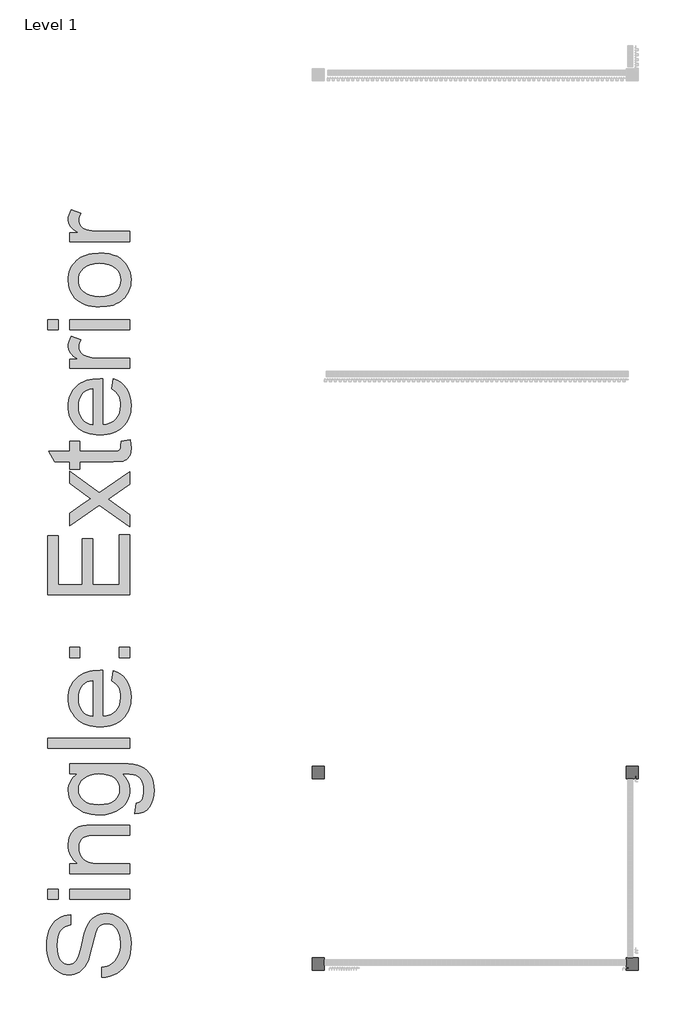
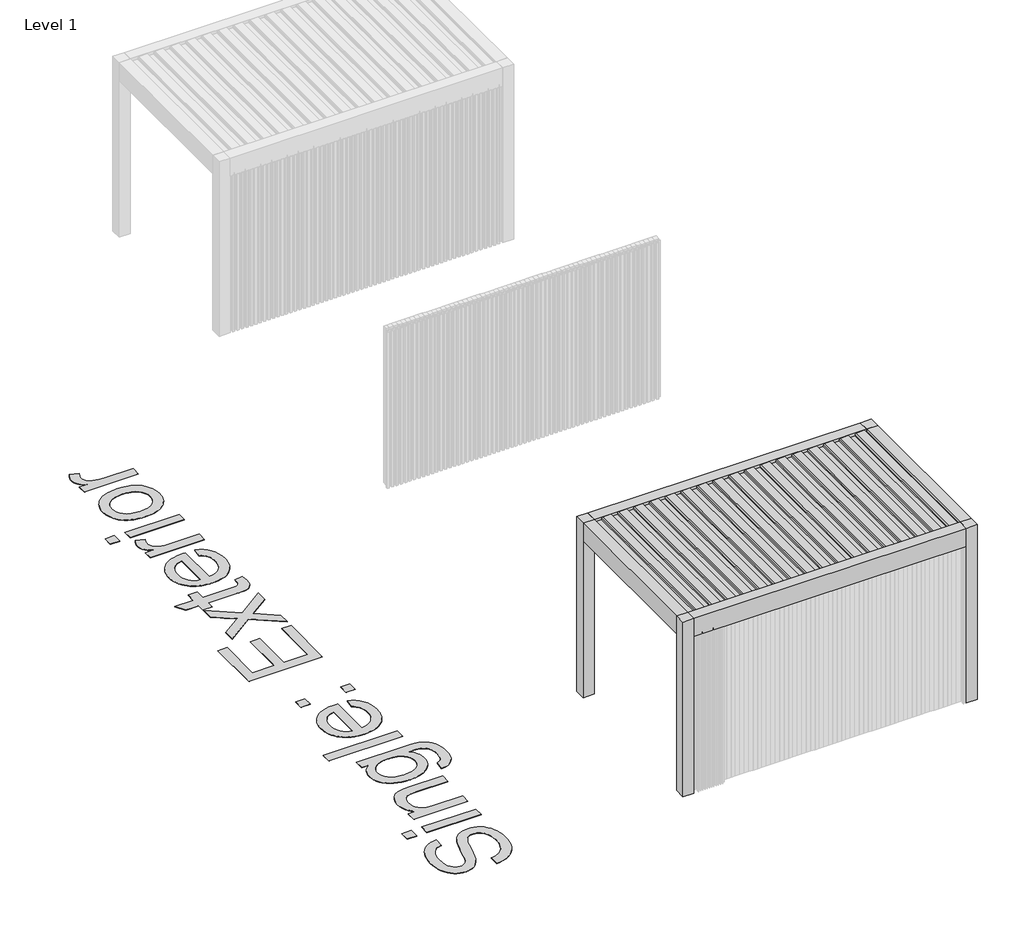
# One storey, part 55 of 69: 2 proxies.
"""IFC4 building model written with IfcOpenShell, lengths in millimetres."""

from ifc_helpers import new_model, si_unit, point, frame, frame_2d, origin, origin_with_axes, place, context, project, spatial, polyline, circle_curve, trimmed, segment, composite_curve, outline, extrude, element, save

model = new_model("IFC4")

# Units and contexts
model_context = context("Model", 3, world=origin())
ifc_project = project(units=[si_unit("LENGTHUNIT", "METRE", prefix="MILLI")], contexts=[model_context])

# Site, building, storey
site = spatial("IfcSite", under=ifc_project)
building = spatial("IfcBuilding", under=site)
storey = spatial("IfcBuildingStorey", under=building, Name="Level 1", Elevation=0.0)

# Proxies
placement = place(None, origin())
element("IfcBuildingElementProxy", 1, Name="Renson_Camargue_Freestanding_Patio covers : Renson_Camargue_Freestanding_Patio covers", ObjectType="Renson_Camargue_Freestanding_Patio covers : Renson_Camargue_Freestanding_Patio covers", at=placement, inside=storey, context=model_context, shape_type="SweptSolid", body=[
    extrude(outline(polyline([(210975.5749426, 10609.7218191), (210975.5749426, 10459.7218191), (210825.5749426, 10459.7218191), (210825.5749426, 10609.7218191), (210975.5749426, 10609.7218191)])), origin_with_axes(), (0.0, 0.0, 1.0), 2510.0),
    extrude(outline(polyline([(207125.5749426, 10609.7218191), (207125.5749426, 10459.7218191), (206975.5749426, 10459.7218191), (206975.5749426, 10609.7218191), (207125.5749426, 10609.7218191)])), origin_with_axes(), (0.0, 0.0, 1.0), 2510.0),
    extrude(outline(polyline([(210975.5749426, 8259.7218191), (210975.5749426, 8109.7218191), (210825.5749426, 8109.7218191), (210825.5749426, 8259.7218191), (210975.5749426, 8259.7218191)])), origin_with_axes(), (0.0, 0.0, 1.0), 2510.0),
    extrude(outline(polyline([(207125.5749426, 8259.7218191), (207125.5749426, 8109.7218191), (206975.5749426, 8109.7218191), (206975.5749426, 8259.7218191), (207125.5749426, 8259.7218191)])), origin_with_axes(), (0.0, 0.0, 1.0), 2510.0),
    extrude(outline(polyline([(8259.7218191, 2510.0), (8259.7218191, 2322.0), (8329.721819, 2322.0), (8329.721819, 2250.0), (8109.7218191, 2250.0), (8109.7218191, 2510.0), (8259.7218191, 2510.0)])), frame((207125.5749426, 0.0, 0.0), z_axis=(1.0, 0.0, 0.0), x_axis=(0.0, 1.0, 0.0)), (0.0, 0.0, 1.0), 3700.0),
    extrude(outline(polyline([(10609.7218191, 2250.0), (10389.7218192, 2250.0), (10389.7218192, 2322.0), (10459.7218191, 2322.0), (10459.7218191, 2510.0), (10609.7218191, 2510.0), (10609.7218191, 2250.0)])), frame((207125.5749426, 0.0, 0.0), z_axis=(1.0, 0.0, 0.0), x_axis=(0.0, 1.0, 0.0)), (0.0, 0.0, 1.0), 3700.0),
    extrude(outline(polyline([(2510.0, 210975.5749426), (2510.0, 210825.5749426), (2479.6904658, 210825.5749426), (2479.2449277, 210820.5749426), (2471.400763, 210820.5749426), (2455.6555802, 210804.8293581), (2455.6555802, 210795.4839749), (2441.6559373, 210799.2352636), (2441.6559373, 210825.5749426), (2250.0, 210825.5749426), (2250.0, 210975.5749426), (2510.0, 210975.5749426)])), frame((0.0, 8259.7218191, 0.0), z_axis=(0.0, 1.0, 0.0), x_axis=(0.0, 0.0, 1.0)), (0.0, 0.0, 1.0), 2200.0),
    extrude(outline(polyline([(207125.5749426, 8259.7218191), (206975.5749426, 8259.7218191), (206975.5749426, 10459.7218191), (207125.5749426, 10459.7218191), (207125.5749426, 8259.7218191)])), frame((0.0, 0.0, 2250.0), z_axis=(0.0, 0.0, 1.0), x_axis=(1.0, 0.0, 0.0)), (0.0, 0.0, 1.0), 260.0),
    extrude(outline(polyline([(2441.6559373, 207125.5749426), (2441.6559373, 207151.5749426), (2455.6555802, 207155.3262313), (2455.6555802, 207145.9808481), (2471.400763, 207130.5749426), (2479.2449277, 207130.5749426), (2479.6823598, 207125.5749426), (2441.6559373, 207125.5749426)])), frame((0.0, 8259.7218191, 0.0), z_axis=(0.0, 1.0, 0.0), x_axis=(0.0, 0.0, 1.0)), (0.0, 0.0, 1.0), 2200.0),
    extrude(outline(composite_curve([segment(polyline([(2458.35, 207324.1467059), (2486.01198, 207326.5668156), (2487.3970364, 207355.4020661), (2506.8911096, 207351.964735), (2501.6075693, 207241.9676201)]), True, "CONTINUOUS"), segment(trimmed(circle_curve(frame_2d((2486.6248435, 207242.6872921)), 15.0), [point((2501.6075693, 207241.9676201))], [point((2489.2295662, 207227.9151758))], False, "CARTESIAN"), True, "CONTINUOUS"), segment(polyline([(2489.2295662, 207227.9151758), (2470.0, 207224.5244844), (2470.0, 207136.7887084), (2487.0788237, 207133.777251), (2486.3450182, 207118.5002805), (2458.35, 207116.0510338), (2458.35, 207324.1467059)]), True, "CONTINUOUS")], self_intersect=False)), frame((0.0, 8259.7218191, 0.0), z_axis=(0.0, 1.0, 0.0), x_axis=(0.0, 0.0, 1.0)), (0.0, 0.0, 1.0), 2200.0),
    extrude(outline(composite_curve([segment(polyline([(2458.35, 210764.3195824), (2486.01198, 210766.7396921), (2487.3970364, 210795.5749426), (2506.8911096, 210792.1376115), (2501.6075693, 210682.1404966)]), True, "CONTINUOUS"), segment(trimmed(circle_curve(frame_2d((2486.6248435, 210682.8601686)), 15.0), [point((2501.6075693, 210682.1404966))], [point((2489.2295662, 210668.0880523))], False, "CARTESIAN"), True, "CONTINUOUS"), segment(polyline([(2489.2295662, 210668.0880523), (2470.0, 210664.6973609), (2470.0, 210576.9615849), (2487.0788237, 210573.9501275), (2486.3450182, 210558.673157), (2458.35, 210556.2239103), (2458.35, 210764.3195824)]), True, "CONTINUOUS")], self_intersect=False)), frame((0.0, 8259.7218191, 0.0), z_axis=(0.0, 1.0, 0.0), x_axis=(0.0, 0.0, 1.0)), (0.0, 0.0, 1.0), 2200.0),
    extrude(outline(composite_curve([segment(polyline([(2458.35, 207539.1575107), (2486.01198, 207541.5776204), (2487.3970364, 207570.4128708), (2506.8911096, 207566.9755398), (2501.6075693, 207456.9784249)]), True, "CONTINUOUS"), segment(trimmed(circle_curve(frame_2d((2486.6248435, 207457.6980968)), 15.0), [point((2501.6075693, 207456.9784249))], [point((2489.2295662, 207442.9259805))], False, "CARTESIAN"), True, "CONTINUOUS"), segment(polyline([(2489.2295662, 207442.9259805), (2470.0, 207439.5352892), (2470.0, 207351.7995132), (2487.0788237, 207348.7880558), (2486.3450182, 207333.5110853), (2458.35, 207331.0618386), (2458.35, 207539.1575107)]), True, "CONTINUOUS")], self_intersect=False)), frame((0.0, 8259.7218191, 0.0), z_axis=(0.0, 1.0, 0.0), x_axis=(0.0, 0.0, 1.0)), (0.0, 0.0, 1.0), 2200.0),
    extrude(outline(composite_curve([segment(polyline([(2458.35, 207754.1683155), (2486.01198, 207756.5884252), (2487.3970364, 207785.4236756), (2506.8911096, 207781.9863445), (2501.6075693, 207671.9892297)]), True, "CONTINUOUS"), segment(trimmed(circle_curve(frame_2d((2486.6248435, 207672.7089016)), 15.0), [point((2501.6075693, 207671.9892297))], [point((2489.2295662, 207657.9367853))], False, "CARTESIAN"), True, "CONTINUOUS"), segment(polyline([(2489.2295662, 207657.9367853), (2470.0, 207654.546094), (2470.0, 207566.810318), (2487.0788237, 207563.7988605), (2486.3450182, 207548.5218901), (2458.35, 207546.0726433), (2458.35, 207754.1683155)]), True, "CONTINUOUS")], self_intersect=False)), frame((0.0, 8259.7218191, 0.0), z_axis=(0.0, 1.0, 0.0), x_axis=(0.0, 0.0, 1.0)), (0.0, 0.0, 1.0), 2200.0),
    extrude(outline(composite_curve([segment(polyline([(2458.35, 207969.1791203), (2486.01198, 207971.5992299), (2487.3970364, 208000.4344804), (2506.8911096, 207996.9971493), (2501.6075693, 207887.0000345)]), True, "CONTINUOUS"), segment(trimmed(circle_curve(frame_2d((2486.6248435, 207887.7197064)), 15.0), [point((2501.6075693, 207887.0000345))], [point((2489.2295662, 207872.9475901))], False, "CARTESIAN"), True, "CONTINUOUS"), segment(polyline([(2489.2295662, 207872.9475901), (2470.0, 207869.5568988), (2470.0, 207781.8211227), (2487.0788237, 207778.8096653), (2486.3450182, 207763.5326948), (2458.35, 207761.0834481), (2458.35, 207969.1791203)]), True, "CONTINUOUS")], self_intersect=False)), frame((0.0, 8259.7218191, 0.0), z_axis=(0.0, 1.0, 0.0), x_axis=(0.0, 0.0, 1.0)), (0.0, 0.0, 1.0), 2200.0),
    extrude(outline(composite_curve([segment(polyline([(2458.35, 208184.1899251), (2486.01198, 208186.6100347), (2487.3970364, 208215.4452852), (2506.8911096, 208212.0079541), (2501.6075693, 208102.0108393)]), True, "CONTINUOUS"), segment(trimmed(circle_curve(frame_2d((2486.6248435, 208102.7305112)), 15.0), [point((2501.6075693, 208102.0108393))], [point((2489.2295662, 208087.9583949))], False, "CARTESIAN"), True, "CONTINUOUS"), segment(polyline([(2489.2295662, 208087.9583949), (2470.0, 208084.5677035), (2470.0, 207996.8319275), (2487.0788237, 207993.8204701), (2486.3450182, 207978.5434996), (2458.35, 207976.0942529), (2458.35, 208184.1899251)]), True, "CONTINUOUS")], self_intersect=False)), frame((0.0, 8259.7218191, 0.0), z_axis=(0.0, 1.0, 0.0), x_axis=(0.0, 0.0, 1.0)), (0.0, 0.0, 1.0), 2200.0),
    extrude(outline(composite_curve([segment(polyline([(2458.35, 208399.2007298), (2486.01198, 208401.6208395), (2487.3970364, 208430.45609), (2506.8911096, 208427.0187589), (2501.6075693, 208317.021644)]), True, "CONTINUOUS"), segment(trimmed(circle_curve(frame_2d((2486.6248435, 208317.741316)), 15.0), [point((2501.6075693, 208317.021644))], [point((2489.2295662, 208302.9691997))], False, "CARTESIAN"), True, "CONTINUOUS"), segment(polyline([(2489.2295662, 208302.9691997), (2470.0, 208299.5785083), (2470.0, 208211.8427323), (2487.0788237, 208208.8312749), (2486.3450182, 208193.5543044), (2458.35, 208191.1050577), (2458.35, 208399.2007298)]), True, "CONTINUOUS")], self_intersect=False)), frame((0.0, 8259.7218191, 0.0), z_axis=(0.0, 1.0, 0.0), x_axis=(0.0, 0.0, 1.0)), (0.0, 0.0, 1.0), 2200.0),
    extrude(outline(composite_curve([segment(polyline([(2458.35, 208614.2115346), (2486.01198, 208616.6316443), (2487.3970364, 208645.4668947), (2506.8911096, 208642.0295637), (2501.6075693, 208532.0324488)]), True, "CONTINUOUS"), segment(trimmed(circle_curve(frame_2d((2486.6248435, 208532.7521207)), 15.0), [point((2501.6075693, 208532.0324488))], [point((2489.2295662, 208517.9800045))], False, "CARTESIAN"), True, "CONTINUOUS"), segment(polyline([(2489.2295662, 208517.9800045), (2470.0, 208514.5893131), (2470.0, 208426.8535371), (2487.0788237, 208423.8420797), (2486.3450182, 208408.5651092), (2458.35, 208406.1158625), (2458.35, 208614.2115346)]), True, "CONTINUOUS")], self_intersect=False)), frame((0.0, 8259.7218191, 0.0), z_axis=(0.0, 1.0, 0.0), x_axis=(0.0, 0.0, 1.0)), (0.0, 0.0, 1.0), 2200.0),
    extrude(outline(composite_curve([segment(polyline([(2458.35, 208829.2223394), (2486.01198, 208831.6424491), (2487.3970364, 208860.4776995), (2506.8911096, 208857.0403684), (2501.6075693, 208747.0432536)]), True, "CONTINUOUS"), segment(trimmed(circle_curve(frame_2d((2486.6248435, 208747.7629255)), 15.0), [point((2501.6075693, 208747.0432536))], [point((2489.2295662, 208732.9908092))], False, "CARTESIAN"), True, "CONTINUOUS"), segment(polyline([(2489.2295662, 208732.9908092), (2470.0, 208729.6001179), (2470.0, 208641.8643419), (2487.0788237, 208638.8528844), (2486.3450182, 208623.575914), (2458.35, 208621.1266672), (2458.35, 208829.2223394)]), True, "CONTINUOUS")], self_intersect=False)), frame((0.0, 8259.7218191, 0.0), z_axis=(0.0, 1.0, 0.0), x_axis=(0.0, 0.0, 1.0)), (0.0, 0.0, 1.0), 2200.0),
    extrude(outline(composite_curve([segment(polyline([(2458.35, 209044.2331442), (2486.01198, 209046.6532538), (2487.3970364, 209075.4885043), (2506.8911096, 209072.0511732), (2501.6075693, 208962.0540584)]), True, "CONTINUOUS"), segment(trimmed(circle_curve(frame_2d((2486.6248435, 208962.7737303)), 15.0), [point((2501.6075693, 208962.0540584))], [point((2489.2295662, 208948.001614))], False, "CARTESIAN"), True, "CONTINUOUS"), segment(polyline([(2489.2295662, 208948.001614), (2470.0, 208944.6109227), (2470.0, 208856.8751466), (2487.0788237, 208853.8636892), (2486.3450182, 208838.5867188), (2458.35, 208836.137472), (2458.35, 209044.2331442)]), True, "CONTINUOUS")], self_intersect=False)), frame((0.0, 8259.7218191, 0.0), z_axis=(0.0, 1.0, 0.0), x_axis=(0.0, 0.0, 1.0)), (0.0, 0.0, 1.0), 2200.0),
    extrude(outline(composite_curve([segment(polyline([(2458.35, 209259.243949), (2486.01198, 209261.6640586), (2487.3970364, 209290.4993091), (2506.8911096, 209287.061978), (2501.6075693, 209177.0648632)]), True, "CONTINUOUS"), segment(trimmed(circle_curve(frame_2d((2486.6248435, 209177.7845351)), 15.0), [point((2501.6075693, 209177.0648632))], [point((2489.2295662, 209163.0124188))], False, "CARTESIAN"), True, "CONTINUOUS"), segment(polyline([(2489.2295662, 209163.0124188), (2470.0, 209159.6217275), (2470.0, 209071.8859514), (2487.0788237, 209068.874494), (2486.3450182, 209053.5975235), (2458.35, 209051.1482768), (2458.35, 209259.243949)]), True, "CONTINUOUS")], self_intersect=False)), frame((0.0, 8259.7218191, 0.0), z_axis=(0.0, 1.0, 0.0), x_axis=(0.0, 0.0, 1.0)), (0.0, 0.0, 1.0), 2200.0),
    extrude(outline(composite_curve([segment(polyline([(2458.35, 209474.2547538), (2486.01198, 209476.6748634), (2487.3970364, 209505.5101139), (2506.8911096, 209502.0727828), (2501.6075693, 209392.0756679)]), True, "CONTINUOUS"), segment(trimmed(circle_curve(frame_2d((2486.6248435, 209392.7953399)), 15.0), [point((2501.6075693, 209392.0756679))], [point((2489.2295662, 209378.0232236))], False, "CARTESIAN"), True, "CONTINUOUS"), segment(polyline([(2489.2295662, 209378.0232236), (2470.0, 209374.6325322), (2470.0, 209286.8967562), (2487.0788237, 209283.8852988), (2486.3450182, 209268.6083283), (2458.35, 209266.1590816), (2458.35, 209474.2547538)]), True, "CONTINUOUS")], self_intersect=False)), frame((0.0, 8259.7218191, 0.0), z_axis=(0.0, 1.0, 0.0), x_axis=(0.0, 0.0, 1.0)), (0.0, 0.0, 1.0), 2200.0),
    extrude(outline(composite_curve([segment(polyline([(2458.35, 209689.2655585), (2486.01198, 209691.6856682), (2487.3970364, 209720.5209187), (2506.8911096, 209717.0835876), (2501.6075693, 209607.0864727)]), True, "CONTINUOUS"), segment(trimmed(circle_curve(frame_2d((2486.6248435, 209607.8061447)), 15.0), [point((2501.6075693, 209607.0864727))], [point((2489.2295662, 209593.0340284))], False, "CARTESIAN"), True, "CONTINUOUS"), segment(polyline([(2489.2295662, 209593.0340284), (2470.0, 209589.643337), (2470.0, 209501.907561), (2487.0788237, 209498.8961036), (2486.3450182, 209483.6191331), (2458.35, 209481.1698864), (2458.35, 209689.2655585)]), True, "CONTINUOUS")], self_intersect=False)), frame((0.0, 8259.7218191, 0.0), z_axis=(0.0, 1.0, 0.0), x_axis=(0.0, 0.0, 1.0)), (0.0, 0.0, 1.0), 2200.0),
    extrude(outline(composite_curve([segment(polyline([(2458.35, 209904.2763633), (2486.01198, 209906.696473), (2487.3970364, 209935.5317234), (2506.8911096, 209932.0943924), (2501.6075693, 209822.0972775)]), True, "CONTINUOUS"), segment(trimmed(circle_curve(frame_2d((2486.6248435, 209822.8169494)), 15.0), [point((2501.6075693, 209822.0972775))], [point((2489.2295662, 209808.0448331))], False, "CARTESIAN"), True, "CONTINUOUS"), segment(polyline([(2489.2295662, 209808.0448331), (2470.0, 209804.6541418), (2470.0, 209716.9183658), (2487.0788237, 209713.9069084), (2486.3450182, 209698.6299379), (2458.35, 209696.1806912), (2458.35, 209904.2763633)]), True, "CONTINUOUS")], self_intersect=False)), frame((0.0, 8259.7218191, 0.0), z_axis=(0.0, 1.0, 0.0), x_axis=(0.0, 0.0, 1.0)), (0.0, 0.0, 1.0), 2200.0),
    extrude(outline(composite_curve([segment(polyline([(2458.35, 210119.2871681), (2486.01198, 210121.7072778), (2487.3970364, 210150.5425282), (2506.8911096, 210147.1051971), (2501.6075693, 210037.1080823)]), True, "CONTINUOUS"), segment(trimmed(circle_curve(frame_2d((2486.6248435, 210037.8277542)), 15.0), [point((2501.6075693, 210037.1080823))], [point((2489.2295662, 210023.0556379))], False, "CARTESIAN"), True, "CONTINUOUS"), segment(polyline([(2489.2295662, 210023.0556379), (2470.0, 210019.6649466), (2470.0, 209931.9291706), (2487.0788237, 209928.9177131), (2486.3450182, 209913.6407427), (2458.35, 209911.1914959), (2458.35, 210119.2871681)]), True, "CONTINUOUS")], self_intersect=False)), frame((0.0, 8259.7218191, 0.0), z_axis=(0.0, 1.0, 0.0), x_axis=(0.0, 0.0, 1.0)), (0.0, 0.0, 1.0), 2200.0),
    extrude(outline(composite_curve([segment(polyline([(2458.35, 210334.2979729), (2486.01198, 210336.7180825), (2487.3970364, 210365.553333), (2506.8911096, 210362.1160019), (2501.6075693, 210252.1188871)]), True, "CONTINUOUS"), segment(trimmed(circle_curve(frame_2d((2486.6248435, 210252.838559)), 15.0), [point((2501.6075693, 210252.1188871))], [point((2489.2295662, 210238.0664427))], False, "CARTESIAN"), True, "CONTINUOUS"), segment(polyline([(2489.2295662, 210238.0664427), (2470.0, 210234.6757514), (2470.0, 210146.9399753), (2487.0788237, 210143.9285179), (2486.3450182, 210128.6515474), (2458.35, 210126.2023007), (2458.35, 210334.2979729)]), True, "CONTINUOUS")], self_intersect=False)), frame((0.0, 8259.7218191, 0.0), z_axis=(0.0, 1.0, 0.0), x_axis=(0.0, 0.0, 1.0)), (0.0, 0.0, 1.0), 2200.0),
    extrude(outline(composite_curve([segment(polyline([(2458.35, 210549.3087777), (2486.01198, 210551.7288873), (2487.3970364, 210580.5641378), (2506.8911096, 210577.1268067), (2501.6075693, 210467.1296919)]), True, "CONTINUOUS"), segment(trimmed(circle_curve(frame_2d((2486.6248435, 210467.8493638)), 15.0), [point((2501.6075693, 210467.1296919))], [point((2489.2295662, 210453.0772475))], False, "CARTESIAN"), True, "CONTINUOUS"), segment(polyline([(2489.2295662, 210453.0772475), (2470.0, 210449.6865561), (2470.0, 210361.9507801), (2487.0788237, 210358.9393227), (2486.3450182, 210343.6623522), (2458.35, 210341.2131055), (2458.35, 210549.3087777)]), True, "CONTINUOUS")], self_intersect=False)), frame((0.0, 8259.7218191, 0.0), z_axis=(0.0, 1.0, 0.0), x_axis=(0.0, 0.0, 1.0)), (0.0, 0.0, 1.0), 2200.0),
])
element("IfcBuildingElementProxy", 2, Name="1000mm Arial", ObjectType="1000mm Arial", at=placement, inside=storey, context=model_context, shape_type="SweptSolid", body=[
    extrude(outline(polyline([(204392.9545821, 8021.116458), (204392.9545821, 8146.6868457), (204429.5051912, 8152.4350018), (204462.6375633, 8161.0955571), (204492.3516987, 8172.6685116), (204518.6475971, 8187.1538651), (204542.0540891, 8205.2873818), (204563.1000049, 8227.8048256), (204581.7853445, 8254.7061965), (204598.1101081, 8285.9914945), (204611.3615241, 8320.5110884), (204620.8268213, 8357.1153469), (204626.5059996, 8395.8042701), (204628.399059, 8436.5778579), (204622.6662312, 8506.5367506), (204615.5001966, 8538.2512443), (204605.467748, 8567.7891028), (204592.9291033, 8594.4222264), (204578.2444803, 8617.4225153), (204561.4138791, 8636.7899695), (204542.4372995, 8652.524589), (204522.1348119, 8664.7030159), (204501.3264865, 8673.4018923), (204480.0123234, 8678.6212181), (204458.1923226, 8680.3609933), (204416.1618046, 8675.1493317), (204379.8334576, 8659.5143469), (204363.7156277, 8646.3625656), (204348.8393995, 8627.753868), (204335.2047731, 8603.6882542), (204322.8117483, 8574.1657241), (204303.0994048, 8507.8549944), (204274.8644616, 8391.3283725), (204243.1346396, 8271.3068715), (204227.8445441, 8227.5059215), (204212.9376591, 8194.511505), (204192.9340756, 8160.980594), (204170.6925433, 8132.0022227), (204146.2130622, 8107.5763911), (204119.4956323, 8087.7030991), (204090.8161651, 8072.3057048), (204060.4505721, 8061.307566), (204028.3988533, 8054.7086827), (203994.6610086, 8052.5090549), (203957.2673367, 8055.2298488), (203921.1152664, 8063.3922306), (203886.2047979, 8076.9962002), (203852.5359312, 8096.0417577), (203821.4805594, 8120.3143051), (203794.4105759, 8149.5992448), (203771.3259807, 8183.8965766), (203752.2267738, 8223.2063007), (203737.2585751, 8266.2025089), (203726.5670047, 8311.5592932), (203720.1520624, 8359.2766536), (203718.0137483, 8409.3545902), (203720.2516971, 8463.9850665), (203726.9655435, 8515.3046048), (203738.1552875, 8563.3132052), (203753.8209291, 8608.0108676), (203773.8245126, 8648.5698576), (203798.0280822, 8684.1624406), (203826.4316379, 8714.7886167), (203859.0351798, 8740.4483859), (203894.8883459, 8760.9424787), (203933.0407745, 8776.0716258), (203973.4924655, 8785.835827), (204016.243419, 8790.2350826), (204016.243419, 8664.6646949), (203976.1749384, 8656.2647227), (203941.3181193, 8641.6107565), (203911.6729619, 8620.7027965), (203887.2394661, 8593.5408425), (203868.1402591, 8559.6190568), (203854.4979685, 8518.4316018), (203846.3125941, 8469.9784773), (203843.584136, 8414.2596835), (203846.2819373, 8356.7627933), (203854.3753412, 8307.6352186), (203867.8643476, 8266.8769592), (203886.7489567, 8234.4880152), (203909.4503415, 8209.8092647), (203934.3896751, 8192.1815857), (203961.5669575, 8181.6049784), (203990.9821887, 8178.0794426), (204016.2894043, 8180.5779745), (204039.2360437, 8188.0735701), (204059.822107, 8200.5662295), (204078.0475942, 8218.0559527), (204095.3073912, 8245.5857887), (204112.7511291, 8288.9345505), (204130.378808, 8348.102238), (204148.190428, 8423.0888514), (204181.8516305, 8561.5351089), (204197.0727481, 8610.2488164), (204211.2208765, 8645.2895765), (204232.6653311, 8683.7868944), (204256.7769302, 8716.8732814), (204283.5556738, 8744.5487373), (204313.0015618, 8766.8132622), (204344.9613101, 8783.9274392), (204379.2816346, 8796.1518513), (204415.9625352, 8803.4864986), (204455.0040119, 8805.931381), (204494.2830791, 8803.1186166), (204532.4125151, 8794.6803233), (204569.3923198, 8780.6165012), (204605.2224933, 8760.9271503), (204638.5158139, 8735.9571599), (204667.8850598, 8706.0514193), (204693.3302312, 8671.2099287), (204714.8513279, 8631.432688), (204731.9655049, 8587.8769926), (204744.189917, 8541.700138), (204751.5245643, 8492.9021242), (204753.9694467, 8441.4829511), (204751.3329591, 8377.2492219), (204743.4234962, 8318.4570806), (204730.241058, 8265.1065271), (204711.7856446, 8217.1975614), (204688.0265991, 8174.4389437), (204658.9332646, 8136.539434), (204624.5056412, 8103.4990323), (204584.7437289, 8075.3177386), (204540.9351147, 8052.6163538), (204494.3673854, 8036.0156788), (204445.0405412, 8025.5157135), (204392.9545821, 8021.116458)])), origin_with_axes(), (0.0, 0.0, 1.0), 5.0),
    extrude(outline(polyline([(203859.2804344, 8978.5906641), (203733.7100467, 8978.5906641), (203733.7100467, 9104.1610518), (203859.2804344, 9104.1610518), (203859.2804344, 8978.5906641)])), origin_with_axes(), (0.0, 0.0, 1.0), 5.0),
    extrude(outline(polyline([(204738.2731482, 8978.5906641), (204000.5471206, 8978.5906641), (204000.5471206, 9104.1610518), (204738.2731482, 9104.1610518), (204738.2731482, 8978.5906641)])), origin_with_axes(), (0.0, 0.0, 1.0), 5.0),
    extrude(outline(polyline([(204738.2731482, 9292.5166333), (204000.5471206, 9292.5166333), (204000.5471206, 9418.087021), (204103.5540792, 9418.087021), (204075.7330033, 9438.8033759), (204051.6214042, 9461.7116943), (204031.2192819, 9486.8119762), (204014.5266364, 9514.1042217), (204001.5434676, 9543.5884308), (203992.2697757, 9575.2646034), (203986.7055605, 9609.1327396), (203984.8508221, 9645.1928394), (203990.8289045, 9707.088985), (203998.3015076, 9736.0826848), (204008.7631518, 9763.7734691), (204021.65435, 9789.1113416), (204036.4156151, 9811.0463055), (204053.046947, 9829.578361), (204071.5483456, 9844.7075081), (204114.0693729, 9867.5468486), (204163.8867264, 9882.3540989), (204211.5274448, 9887.3205058), (204285.2877848, 9888.9759748), (204738.2731482, 9888.9759748), (204738.2731482, 9763.4055871), (204302.2103566, 9763.4055871), (204237.2791845, 9759.7880809), (204191.1099941, 9748.935562), (204173.6432635, 9740.3133277), (204158.0312713, 9728.9166501), (204144.2740176, 9714.7455291), (204132.3715022, 9697.7999647), (204115.9087829, 9657.915425), (204110.4212098, 9611.5929505), (204113.5022215, 9573.4635145), (204122.7452566, 9538.0472083), (204138.1503152, 9505.3440317), (204159.7173972, 9475.3539849), (204189.8990492, 9450.2996882), (204231.1478179, 9432.403762), (204283.4637033, 9421.6662062), (204346.8467054, 9418.087021), (204738.2731482, 9418.087021), (204738.2731482, 9292.5166333)])), origin_with_axes(), (0.0, 0.0, 1.0), 5.0),
    extrude(outline(polyline([(204801.0583421, 10030.242661), (204816.7546405, 10155.8130487), (204837.9078553, 10161.1166808), (204855.9953867, 10169.6699371), (204871.0172348, 10181.4728178), (204882.9733997, 10196.5253228), (204895.205476, 10220.8821766), (204903.9426734, 10249.3163891), (204909.1849918, 10281.8279604), (204910.9324313, 10318.4168905), (204908.9550656, 10357.6269799), (204903.0229684, 10392.1159169), (204893.1361398, 10421.8837017), (204879.2945797, 10446.9303342), (204861.8814986, 10467.7769806), (204841.2801069, 10484.944807), (204817.4904045, 10498.4338135), (204790.5123915, 10508.244), (204736.4950519, 10515.049817), (204644.0953575, 10516.8279133), (204685.2981409, 10475.04265), (204714.7287005, 10428.4136071), (204725.0293964, 10403.2826683), (204732.3870363, 10376.9407846), (204738.2731482, 10320.6241825), (204736.5601977, 10285.1714713), (204731.4213461, 10251.7765999), (204722.8565934, 10220.4395685), (204710.8659396, 10191.160377), (204695.4493847, 10163.9390254), (204676.6069288, 10138.7755138), (204654.3385718, 10115.669842), (204628.6443137, 10094.6220101), (204571.1014383, 10059.5889143), (204508.1016466, 10034.5652744), (204439.6449386, 10019.5510905), (204365.7313145, 10014.5463625), (204314.0209015, 10016.7919755), (204264.3491679, 10023.5288146), (204216.7161138, 10034.7568796), (204171.121739, 10050.4761707), (204129.0835568, 10070.4490974), (204092.1190805, 10094.4380691), (204060.2283101, 10122.443086), (204033.4112455, 10154.464148), (204012.1660603, 10189.9877532), (203996.990928, 10228.5003995), (203987.8858486, 10270.0020871), (203984.8508221, 10314.4928159), (203986.5676048, 10344.5326801), (203991.7179527, 10373.2159794), (204000.3018659, 10400.5427138), (204012.3193444, 10426.5128834), (204027.7703882, 10451.1264882), (204046.6549973, 10474.3835281), (204068.9731717, 10496.2840031), (204094.7249113, 10516.8279133), (204000.5471206, 10516.8279133), (204000.5471206, 10642.3983009), (204637.4734816, 10642.3983009), (204717.2808819, 10640.2523226), (204784.5343091, 10633.8143877), (204839.2337633, 10623.0844962), (204881.3792444, 10608.0626481), (204915.3700079, 10588.3886255), (204945.6053093, 10563.7022108), (204972.0851488, 10534.0034039), (204994.8095262, 10499.2922048), (205013.0503418, 10459.9211671), (205026.0794958, 10416.2428444), (205033.8969882, 10368.2572367), (205036.502819, 10315.9643439), (205032.8316632, 10254.4437444), (205021.818196, 10199.1311536), (205003.4624173, 10150.0265714), (204977.7643271, 10107.129998), (204944.6932686, 10072.4801125), (204904.2185849, 10048.1155946), (204856.3402761, 10034.0364441), (204801.0583421, 10030.242661)]), holes=[polyline([(204357.1474012, 10140.1167502), (204419.2351521, 10143.4660092), (204472.3251226, 10153.5137862), (204516.4173125, 10170.2600812), (204551.511722, 10193.7048942), (204578.2828014, 10222.2080846), (204597.4050009, 10254.1295119), (204608.8783206, 10289.469176), (204612.7027605, 10328.2270771), (204608.9013133, 10366.6017677), (204597.4969714, 10401.7728193), (204578.489735, 10433.7402318), (204551.879604, 10462.5040053), (204517.1300839, 10486.270715), (204473.70468, 10503.2469363), (204421.6033925, 10513.432669), (204360.8262212, 10516.8279133), (204302.5859028, 10513.3330343), (204251.9638074, 10502.8483974), (204208.959935, 10485.3740027), (204173.5742856, 10460.90985), (204145.944815, 10431.5252756), (204126.2094788, 10399.2896158), (204114.368277, 10364.2028705), (204110.4212098, 10326.2650398), (204114.3069634, 10288.9633383), (204125.9642241, 10254.5587075), (204145.392992, 10223.0511475), (204172.593267, 10194.4406582), (204207.4424218, 10170.6739484), (204249.8178291, 10153.6977272), (204299.7194889, 10143.5119944), (204357.1474012, 10140.1167502)])]), origin_with_axes(), (0.0, 0.0, 1.0), 5.0),
    extrude(outline(polyline([(204738.2731482, 10830.7538825), (203733.7100467, 10830.7538825), (203733.7100467, 10956.3242702), (204738.2731482, 10956.3242702), (204738.2731482, 10830.7538825)])), origin_with_axes(), (0.0, 0.0, 1.0), 5.0),
    extrude(outline(polyline([(204518.5249698, 11661.1861729), (204534.2212682, 11784.304014), (204583.532784, 11765.4270691), (204626.9888447, 11739.9435767), (204664.5894503, 11707.8535369), (204696.3346008, 11669.1569495), (204721.5498459, 11624.2523535), (204739.5607352, 11573.5382876), (204750.3672688, 11517.0147519), (204753.9694467, 11454.6817463), (204752.4155285, 11414.663083), (204747.7537738, 11376.7674054), (204739.9841827, 11340.9947135), (204729.1067552, 11307.3450072), (204715.1214912, 11275.8182867), (204698.0283908, 11246.4145518), (204677.827454, 11219.1338026), (204654.5186807, 11193.9760391), (204628.4048072, 11171.3857853), (204599.7885697, 11151.8075654), (204568.6699682, 11135.2413793), (204535.0490027, 11121.687227), (204498.9256733, 11111.1451086), (204460.2999798, 11103.615024), (204419.1719224, 11099.0969732), (204375.541501, 11097.5909563), (204330.4261392, 11099.1123016), (204287.9089441, 11103.6763377), (204247.9899155, 11111.2830643), (204210.6690535, 11121.9324817), (204175.9463581, 11135.6245897), (204143.8218293, 11152.3593883), (204114.2954671, 11172.1368777), (204087.3672714, 11194.9570577), (204063.3399786, 11220.2029596), (204042.5163249, 11247.2576147), (204024.8963101, 11276.1210229), (204010.4799344, 11306.7931842), (203999.2671978, 11339.2740987), (203991.2581002, 11373.5637664), (203986.4526416, 11409.6621871), (203984.8508221, 11447.5693611), (203986.4488095, 11484.2368493), (203991.2427718, 11519.191387), (203999.2327089, 11552.4329742), (204010.4186208, 11583.9616108), (204024.8005075, 11613.7772968), (204042.3783691, 11641.8800324), (204063.1522055, 11668.2698174), (204087.1220168, 11692.9466518), (204113.9888987, 11715.2782386), (204143.4539473, 11734.6322804), (204175.5171624, 11751.0087774), (204210.1785442, 11764.4077294), (204247.4380925, 11774.8291366), (204287.2958074, 11782.2729988), (204374.805737, 11788.2280886), (204408.6508806, 11787.4923246), (204408.6508806, 11223.161344), (204458.759474, 11230.4346776), (204502.6447303, 11244.8970386), (204540.3066496, 11266.5484268), (204571.7452318, 11295.3888424), (204596.5312812, 11329.82413), (204614.2356022, 11368.2601343), (204624.8581948, 11410.6968553), (204628.399059, 11457.1342929), (204626.7589184, 11491.8684846), (204621.8384968, 11523.9661887), (204613.637794, 11553.4274052), (204602.15681, 11580.252134), (204587.0889766, 11604.4403752), (204568.1277255, 11625.9921287), (204545.2730565, 11644.9073946), (204518.5249698, 11661.1861729)]), holes=[polyline([(204283.0804929, 11223.161344), (204283.0804929, 11662.6577009), (204247.5492235, 11656.2044376), (204216.7391064, 11645.6738155), (204190.6501416, 11631.0658346), (204169.282329, 11612.3804949), (204143.5305894, 11578.1368125), (204125.1364896, 11539.1719779), (204114.1000298, 11495.4859909), (204110.4212098, 11447.0788517), (204113.3566016, 11402.9253481), (204122.1627768, 11362.435336), (204136.8397356, 11325.6088155), (204157.3874778, 11292.4457864), (204182.8556418, 11264.6170463), (204212.2938656, 11243.7933926), (204245.7021493, 11229.9748251), (204283.0804929, 11223.161344)])]), origin_with_axes(), (0.0, 0.0, 1.0), 5.0),
    extrude(outline(polyline([(204126.1175083, 11945.1910732), (204000.5471206, 11945.1910732), (204000.5471206, 12070.7614609), (204126.1175083, 12070.7614609), (204126.1175083, 11945.1910732)])), origin_with_axes(), (0.0, 0.0, 1.0), 5.0),
    extrude(outline(polyline([(204738.2731482, 11945.1910732), (204612.7027605, 11945.1910732), (204612.7027605, 12070.7614609), (204738.2731482, 12070.7614609), (204738.2731482, 11945.1910732)])), origin_with_axes(), (0.0, 0.0, 1.0), 5.0),
    extrude(outline(polyline([(204738.2731482, 12714.3096978), (203733.7100467, 12714.3096978), (203733.7100467, 13436.339427), (203859.2804344, 13436.339427), (203859.2804344, 12839.8800855), (204157.5101052, 12839.8800855), (204157.5101052, 13404.9468301), (204283.0804929, 13404.9468301), (204283.0804929, 12839.8800855), (204612.7027605, 12839.8800855), (204612.7027605, 13452.0357254), (204738.2731482, 13452.0357254), (204738.2731482, 12714.3096978)])), origin_with_axes(), (0.0, 0.0, 1.0), 5.0),
    extrude(outline(polyline([(204738.2731482, 13546.2135162), (204367.4480971, 13814.522118), (204000.5471206, 13561.9098147), (204000.5471206, 13712.9866874), (204177.1304783, 13834.8782551), (204260.5170638, 13891.777337), (204192.3362674, 13941.0735244), (204000.5471206, 14079.8876639), (204000.5471206, 14230.9645366), (204367.4480971, 13965.5989907), (204738.2731482, 14221.15435), (204738.2731482, 14070.0774773), (204515.3366592, 13916.3028034), (204474.624385, 13888.0985171), (204738.2731482, 13697.2903889), (204738.2731482, 13546.2135162)])), origin_with_axes(), (0.0, 0.0, 1.0), 5.0),
    extrude(outline(polyline([(204633.5494069, 14597.8655131), (204741.9519682, 14613.5618116), (204750.9650771, 14563.8364285), (204753.9694467, 14519.6292754), (204748.7577851, 14459.3579419), (204742.2432081, 14434.9704313), (204733.1228003, 14414.4150248), (204709.0265296, 14382.6545459), (204694.5411761, 14370.9129789), (204678.4310104, 14361.9305269), (204656.8332716, 14355.2779941), (204625.8851987, 14350.526185), (204535.9380509, 14346.7247377), (204126.1175083, 14346.7247377), (204126.1175083, 14252.546947), (204000.5471206, 14252.546947), (204000.5471206, 14346.7247377), (203821.2659616, 14346.7247377), (203747.4443079, 14472.2951254), (204000.5471206, 14472.2951254), (204000.5471206, 14597.8655131), (204126.1175083, 14597.8655131), (204126.1175083, 14472.2951254), (204532.2592309, 14472.2951254), (204573.5846417, 14473.9505944), (204597.0064621, 14478.9170013), (204609.9743024, 14487.592885), (204619.9377731, 14500.3767844), (204626.2837375, 14518.4949726), (204628.399059, 14543.1737231), (204633.5494069, 14597.8655131)])), origin_with_axes(), (0.0, 0.0, 1.0), 5.0),
    extrude(outline(polyline([(204518.5249698, 15239.942222), (204534.2212682, 15363.0600631), (204583.532784, 15344.1831182), (204626.9888447, 15318.6996258), (204664.5894503, 15286.6095859), (204696.3346008, 15247.9129986), (204721.5498459, 15203.0084025), (204739.5607352, 15152.2943367), (204750.3672688, 15095.7708009), (204753.9694467, 15033.4377954), (204752.4155285, 14993.4191321), (204747.7537738, 14955.5234545), (204739.9841827, 14919.7507626), (204729.1067552, 14886.1010563), (204715.1214912, 14854.5743357), (204698.0283908, 14825.1706009), (204677.827454, 14797.8898517), (204654.5186807, 14772.7320881), (204628.4048072, 14750.1418344), (204599.7885697, 14730.5636144), (204568.6699682, 14713.9974283), (204535.0490027, 14700.4432761), (204498.9256733, 14689.9011577), (204460.2999798, 14682.3710731), (204419.1719224, 14677.8530223), (204375.541501, 14676.3470054), (204330.4261392, 14677.8683507), (204287.9089441, 14682.4323867), (204247.9899155, 14690.0391134), (204210.6690535, 14700.6885307), (204175.9463581, 14714.3806388), (204143.8218293, 14731.1154374), (204114.2954671, 14750.8929268), (204087.3672714, 14773.7131068), (204063.3399786, 14798.9590087), (204042.5163249, 14826.0136638), (204024.8963101, 14854.877072), (204010.4799344, 14885.5492333), (203999.2671978, 14918.0301478), (203991.2581002, 14952.3198154), (203986.4526416, 14988.4182362), (203984.8508221, 15026.3254101), (203986.4488095, 15062.9928984), (203991.2427718, 15097.9474361), (203999.2327089, 15131.1890232), (204010.4186208, 15162.7176599), (204024.8005075, 15192.5333459), (204042.3783691, 15220.6360815), (204063.1522055, 15247.0258665), (204087.1220168, 15271.7027009), (204113.9888987, 15294.0342877), (204143.4539473, 15313.3883295), (204175.5171624, 15329.7648264), (204210.1785442, 15343.1637785), (204247.4380925, 15353.5851856), (204287.2958074, 15361.0290479), (204374.805737, 15366.9841377), (204408.6508806, 15366.2483737), (204408.6508806, 14801.9173931), (204458.759474, 14809.1907267), (204502.6447303, 14823.6530876), (204540.3066496, 14845.3044759), (204571.7452318, 14874.1448915), (204596.5312812, 14908.5801791), (204614.2356022, 14947.0161833), (204624.8581948, 14989.4529043), (204628.399059, 15035.890342), (204626.7589184, 15070.6245337), (204621.8384968, 15102.7222378), (204613.637794, 15132.1834543), (204602.15681, 15159.0081831), (204587.0889766, 15183.1964242), (204568.1277255, 15204.7481778), (204545.2730565, 15223.6634437), (204518.5249698, 15239.942222)]), holes=[polyline([(204283.0804929, 14801.9173931), (204283.0804929, 15241.41375), (204247.5492235, 15234.9604867), (204216.7391064, 15224.4298645), (204190.6501416, 15209.8218837), (204169.282329, 15191.136544), (204143.5305894, 15156.8928616), (204125.1364896, 15117.9280269), (204114.1000298, 15074.24204), (204110.4212098, 15025.8349008), (204113.3566016, 14981.6813972), (204122.1627768, 14941.1913851), (204136.8397356, 14904.3648645), (204157.3874778, 14871.2018355), (204182.8556418, 14843.3730954), (204212.2938656, 14822.5494416), (204245.7021493, 14808.7308742), (204283.0804929, 14801.9173931)])]), origin_with_axes(), (0.0, 0.0, 1.0), 5.0),
    extrude(outline(polyline([(204738.2731482, 15492.5545254), (204000.5471206, 15492.5545254), (204000.5471206, 15602.4286146), (204109.6854458, 15602.4286146), (204046.4097426, 15643.0182614), (204024.5207639, 15662.1174683), (204009.1310338, 15680.4195976), (203990.920875, 15717.9435611), (203984.8508221, 15758.9010899), (203987.2727119, 15790.0484321), (203994.5383813, 15821.441029), (204006.6478303, 15853.0788806), (204023.6010589, 15884.9619869), (204136.1729495, 15843.0234394), (204116.8591447, 15798.8776), (204112.0306935, 15776.8046803), (204110.4212098, 15754.7317606), (204111.9693799, 15735.4869337), (204116.6138901, 15717.2384539), (204124.3547404, 15699.9863212), (204135.1919308, 15683.7305355), (204148.7729078, 15669.0842336), (204164.7451178, 15656.660552), (204203.8632366, 15638.4810501), (204274.0060703, 15623.2139473), (204350.5255253, 15618.124913), (204738.2731482, 15618.124913), (204738.2731482, 15492.5545254)])), origin_with_axes(), (0.0, 0.0, 1.0), 5.0),
    extrude(outline(polyline([(203859.2804344, 15963.4434792), (203733.7100467, 15963.4434792), (203733.7100467, 16089.0138669), (203859.2804344, 16089.0138669), (203859.2804344, 15963.4434792)])), origin_with_axes(), (0.0, 0.0, 1.0), 5.0),
    extrude(outline(polyline([(204738.2731482, 15963.4434792), (204000.5471206, 15963.4434792), (204000.5471206, 16089.0138669), (204738.2731482, 16089.0138669), (204738.2731482, 15963.4434792)])), origin_with_axes(), (0.0, 0.0, 1.0), 5.0),
    extrude(outline(polyline([(204369.4101344, 16245.9768515), (204319.9874876, 16247.6744736), (204273.8681146, 16252.76734), (204231.0520153, 16261.2554506), (204191.5391897, 16273.1388055), (204155.3296379, 16288.4174046), (204122.4233599, 16307.0912479), (204092.8203556, 16329.1603355), (204066.520625, 16354.6246674), (204030.7900863, 16402.4799836), (204005.2682728, 16455.3017067), (203989.9551848, 16513.0898368), (203984.8508221, 16575.8443738), (203986.4047403, 16611.3124135), (203991.066495, 16645.121152), (203998.8360861, 16677.2705895), (204009.7135136, 16707.7607259), (204023.6987776, 16736.5915612), (204040.791878, 16763.7630955), (204060.9928149, 16789.2753286), (204084.3015881, 16813.1282607), (204110.3503159, 16834.7125871), (204138.7711161, 16853.4190034), (204169.5639887, 16869.2475094), (204202.7289338, 16882.1981053), (204238.2659513, 16892.270791), (204276.1750413, 16899.4655665), (204359.1094385, 16905.2213868), (204426.3245447, 16902.6768697), (204485.9674132, 16895.0433183), (204538.0380439, 16882.3207326), (204582.5364369, 16864.5091127), (204620.9724412, 16841.8307205), (204654.8559058, 16814.5078182), (204684.1868307, 16782.5404057), (204708.965216, 16745.9284829), (204728.6545669, 16706.0975927), (204742.718389, 16664.4732778), (204751.1566823, 16621.0555382), (204753.9694467, 16575.8443738), (204752.4212766, 16539.816847), (204747.7767664, 16505.5559201), (204740.0359161, 16473.0615933), (204729.1987257, 16442.3338664), (204715.2651951, 16413.3727395), (204698.2353244, 16386.1782127), (204678.1091136, 16360.7502858), (204654.8865627, 16337.088959), (204628.7516126, 16315.7345588), (204599.8882044, 16297.2274119), (204568.296338, 16281.5675185), (204533.9760136, 16268.7548784), (204496.927231, 16258.7894916), (204457.1499903, 16251.6713582), (204369.4101344, 16245.9768515)]), holes=[polyline([(204369.1648797, 16371.5472392), (204430.0723426, 16375.1800739), (204482.8097594, 16386.078578), (204527.3771303, 16404.2427515), (204563.7744552, 16429.6725944), (204592.0477194, 16460.6053388), (204612.2429081, 16495.2782169), (204624.3600213, 16533.6912285), (204628.399059, 16575.8443738), (204624.3370286, 16617.7829213), (204612.1509376, 16656.0426488), (204591.8407857, 16690.6235563), (204563.4065732, 16721.5256439), (204526.6490305, 16746.9554868), (204481.3688883, 16765.1196603), (204427.5661465, 16776.0181645), (204365.2408051, 16779.6509992), (204306.2647228, 16775.9951718), (204254.9068634, 16765.0276898), (204211.167227, 16746.7485532), (204175.0458136, 16721.1577619), (204146.7725494, 16690.1407112), (204126.5773608, 16655.5827963), (204114.4602475, 16617.4840172), (204110.4212098, 16575.8443738), (204114.4449191, 16533.6912285), (204126.5160471, 16495.2782169), (204146.6345937, 16460.6053388), (204174.800559, 16429.6725944), (204211.0905849, 16404.2427515), (204255.5813137, 16386.078578), (204308.2727453, 16375.1800739), (204369.1648797, 16371.5472392)])]), origin_with_axes(), (0.0, 0.0, 1.0), 5.0),
    extrude(outline(polyline([(204738.2731482, 17046.488073), (204000.5471206, 17046.488073), (204000.5471206, 17156.3621622), (204109.6854458, 17156.3621622), (204046.4097426, 17196.951809), (204024.5207639, 17216.0510159), (204009.1310338, 17234.3531452), (203990.920875, 17271.8771087), (203984.8508221, 17312.8346375), (203987.2727119, 17343.9819798), (203994.5383813, 17375.3745767), (204006.6478303, 17407.0124283), (204023.6010589, 17438.8955345), (204136.1729495, 17396.9569871), (204116.8591447, 17352.8111476), (204112.0306935, 17330.7382279), (204110.4212098, 17308.6653082), (204111.9693799, 17289.4204813), (204116.6138901, 17271.1720015), (204124.3547404, 17253.9198688), (204135.1919308, 17237.6640831), (204148.7729078, 17223.0177812), (204164.7451178, 17210.5940997), (204203.8632366, 17192.4145977), (204274.0060703, 17177.1474949), (204350.5255253, 17172.0584607), (204738.2731482, 17172.0584607), (204738.2731482, 17046.488073)])), origin_with_axes(), (0.0, 0.0, 1.0), 5.0),
])

save(model, "model.ifc")
